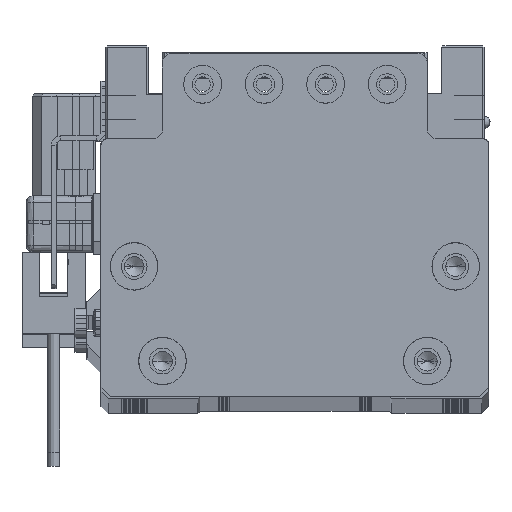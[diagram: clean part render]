
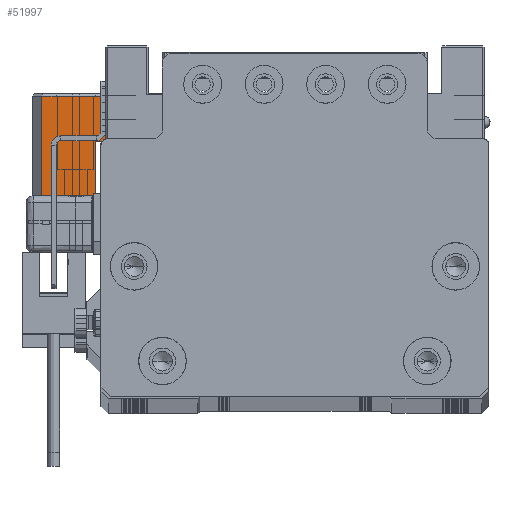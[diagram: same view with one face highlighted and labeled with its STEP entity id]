
A CAD part, top view. The second image highlights one B-rep face of the part: STEP entity #51997.
In plain terms, the highlighted planar face has unit normal (0, 0, 1) as drawn and (1, 0, 0) by its records, which use the part's own axes.
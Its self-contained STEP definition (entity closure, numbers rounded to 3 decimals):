
#544 = LINE ( 'NONE', #11075, #60547 ) ;
#2965 = CARTESIAN_POINT ( 'NONE',  ( 17., 10.25, -2. ) ) ;
#3917 = VECTOR ( 'NONE', #28459, 1000. ) ;
#4256 = VERTEX_POINT ( 'NONE', #37277 ) ;
#7922 = VECTOR ( 'NONE', #9698, 1000. ) ;
#8387 = VECTOR ( 'NONE', #13128, 1000. ) ;
#9325 = EDGE_CURVE ( 'NONE', #63750, #66737, #59744, .T. ) ;
#9424 = CARTESIAN_POINT ( 'NONE',  ( 17., -10.75, -15.5 ) ) ;
#9698 = DIRECTION ( 'NONE',  ( 0., -1., 0. ) ) ;
#10040 = CARTESIAN_POINT ( 'NONE',  ( 17., -10.75, -2. ) ) ;
#11075 = CARTESIAN_POINT ( 'NONE',  ( 17., -10.75, -15.5 ) ) ;
#11293 = LINE ( 'NONE', #54048, #3917 ) ;
#12558 = ORIENTED_EDGE ( 'NONE', *, *, #62474, .F. ) ;
#12686 = CARTESIAN_POINT ( 'NONE',  ( 17., 0.75, -15.5 ) ) ;
#13040 = VECTOR ( 'NONE', #40963, 1000. ) ;
#13128 = DIRECTION ( 'NONE',  ( 0., 0., 1. ) ) ;
#14220 = EDGE_CURVE ( 'NONE', #66737, #57792, #52800, .T. ) ;
#15294 = ORIENTED_EDGE ( 'NONE', *, *, #9325, .T. ) ;
#20255 = CARTESIAN_POINT ( 'NONE',  ( 17., -10.75, -15.5 ) ) ;
#20929 = CARTESIAN_POINT ( 'NONE',  ( 17., -10.75, -2. ) ) ;
#28459 = DIRECTION ( 'NONE',  ( 0., 0., 1. ) ) ;
#30089 = LINE ( 'NONE', #20255, #13040 ) ;
#31433 = ORIENTED_EDGE ( 'NONE', *, *, #14220, .T. ) ;
#32257 = VERTEX_POINT ( 'NONE', #12686 ) ;
#33551 = EDGE_CURVE ( 'NONE', #4256, #57792, #544, .T. ) ;
#35228 = ORIENTED_EDGE ( 'NONE', *, *, #68667, .F. ) ;
#36712 = DIRECTION ( 'NONE',  ( 0., 0., 1. ) ) ;
#37277 = CARTESIAN_POINT ( 'NONE',  ( 17., -10.75, -13.3 ) ) ;
#39093 = CARTESIAN_POINT ( 'NONE',  ( 17., 10.25, -15.5 ) ) ;
#39390 = LINE ( 'NONE', #60718, #56780 ) ;
#39956 = FACE_OUTER_BOUND ( 'NONE', #56593, .T. ) ;
#40963 = DIRECTION ( 'NONE',  ( 0., 1., 0. ) ) ;
#41322 = PLANE ( 'NONE',  #50555 ) ;
#41931 = ORIENTED_EDGE ( 'NONE', *, *, #44112, .T. ) ;
#44112 = EDGE_CURVE ( 'NONE', #32257, #63750, #30089, .T. ) ;
#50555 = AXIS2_PLACEMENT_3D ( 'NONE', #9424, #56044, #52178 ) ;
#51997 = ADVANCED_FACE ( 'NONE', ( #39956 ), #41322, .T. ) ;
#52178 = DIRECTION ( 'NONE',  ( 0., 0., -1. ) ) ;
#52800 = LINE ( 'NONE', #10040, #7922 ) ;
#52939 = CARTESIAN_POINT ( 'NONE',  ( 17., 0.75, -13.3 ) ) ;
#54048 = CARTESIAN_POINT ( 'NONE',  ( 17., 0.75, -15.5 ) ) ;
#56044 = DIRECTION ( 'NONE',  ( 1., 0., 0. ) ) ;
#56593 = EDGE_LOOP ( 'NONE', ( #41931, #15294, #31433, #65058, #12558, #35228 ) ) ;
#56780 = VECTOR ( 'NONE', #61062, 1000. ) ;
#57792 = VERTEX_POINT ( 'NONE', #20929 ) ;
#59744 = LINE ( 'NONE', #39093, #8387 ) ;
#60547 = VECTOR ( 'NONE', #36712, 1000. ) ;
#60718 = CARTESIAN_POINT ( 'NONE',  ( 17., -10.75, -13.3 ) ) ;
#61062 = DIRECTION ( 'NONE',  ( 0., -1., 0. ) ) ;
#62474 = EDGE_CURVE ( 'NONE', #68935, #4256, #39390, .T. ) ;
#63750 = VERTEX_POINT ( 'NONE', #69239 ) ;
#65058 = ORIENTED_EDGE ( 'NONE', *, *, #33551, .F. ) ;
#66737 = VERTEX_POINT ( 'NONE', #2965 ) ;
#68667 = EDGE_CURVE ( 'NONE', #32257, #68935, #11293, .T. ) ;
#68935 = VERTEX_POINT ( 'NONE', #52939 ) ;
#69239 = CARTESIAN_POINT ( 'NONE',  ( 17., 10.25, -15.5 ) ) ;
